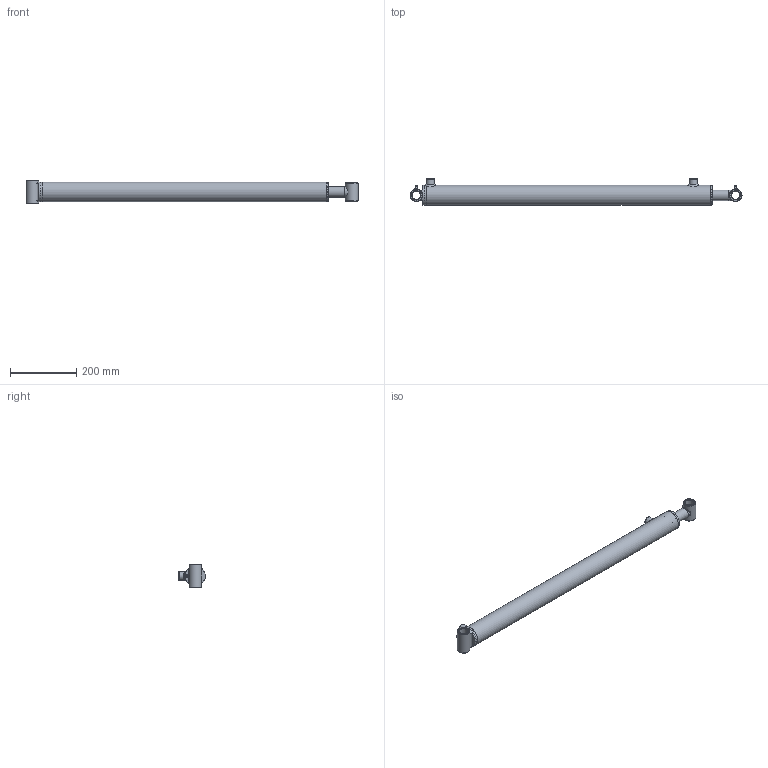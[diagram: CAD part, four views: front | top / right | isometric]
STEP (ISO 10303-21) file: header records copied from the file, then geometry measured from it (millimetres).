
FILE_DESCRIPTION(/* description */ (''),/* implementation_level */ '2;1');
FILE_NAME(/* name */ 'C:\01 - Philip\00 - Philip Rivard\01 - Contracts\Eagle Hydraulic Components\00 - 3D Cylinder\01 - Standard\HBU\HBU20XX\STEP\HBU2030.stp',/* time_stamp */ '2015-05-19T20:08:32-04:00',/* author */ ('Philip'),/* organization */ (''),/* preprocessor_version */ 'ST-DEVELOPER v16.1',/* originating_system */ 'Autodesk Inventor 2016',/* authorisation */ '');
FILE_SCHEMA (('AUTOMOTIVE_DESIGN { 1 0 10303 214 3 1 1 }'));
Length unit declared in the file: inch
Products named in the file (12): Tube_Welding_Welds; ECP-20-HBU; Tube; Straight_Port; Gland; Grease Fitting 1-8; Tube_Welding; Rod_Welding_Welds; Rod; Bushing; Rod_Welding; Cylinder_Assembly
Assembly tree (13 placements, depth 3):
  Cylinder_Assembly
    Tube_Welding
      Tube_Welding_Welds
      ECP-20-HBU
      Tube
      Straight_Port  x2
      Gland
      Grease Fitting 1-8
    Rod_Welding
      Rod_Welding_Welds
      Rod
      Bushing
      Grease Fitting 1-8
Bounding box: 1003.3 x 80.33 x 69.8 mm (x, y, z)
Volume: 1599404 mm3; surface area: 457673.3 mm2
Topology: 12 solids, 12 shells, 197 faces, 429 edges, 260 vertices
Faces by surface type: cone 65, plane 55, cylinder 50, torus 15, bspline 10, sphere 2
Full cylindrical faces by diameter (mm): 4 x2, 5 x1, 7.5 x2, 8 x2, 10 x2, 12.751 x2, 22 x1, 25 x4, 25.4 x2, 25.65 x2, 26 x1, 26.25 x1, 31.75 x2, 38.1 x2, 43 x1, 44.45 x1, 50.546 x1, 50.75 x1, 50.8 x1, 51 x1, 55 x4, 60.3 x1, 60.325 x1
Entity records: 6036 total; most frequent: CARTESIAN_POINT 2846, DIRECTION 631, ORIENTED_EDGE 486, AXIS2_PLACEMENT_3D 293, EDGE_LOOP 270, EDGE_CURVE 243, VERTEX_POINT 191, ADVANCED_FACE 157
